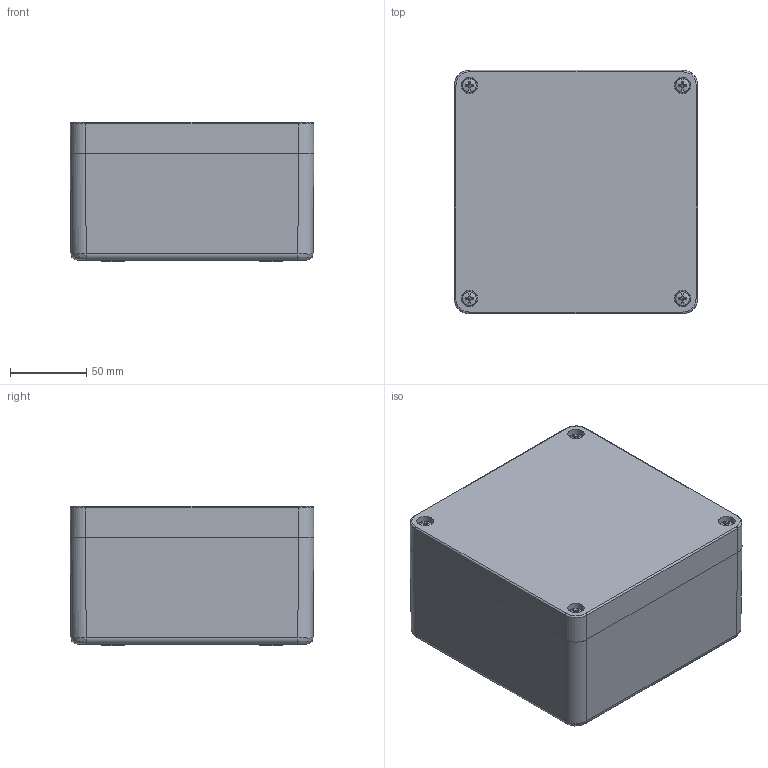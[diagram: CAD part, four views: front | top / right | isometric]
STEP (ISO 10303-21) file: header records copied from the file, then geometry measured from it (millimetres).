
FILE_DESCRIPTION(/* description */ (''),/* implementation_level */ '2;1');
FILE_NAME(/* name */ 'E:\Eng\Customer Service\Drawings\working on 1590ZGRP\STEP\1590ZGRP161\1590ZGRP161.iam.stp',/* time_stamp */ '2016-02-02T08:21:04-05:00',/* author */ ('kbond'),/* organization */ (''),/* preprocessor_version */ 'ST-DEVELOPER v16.1',/* originating_system */ 'Autodesk Inventor 2016',/* authorisation */ '');
FILE_SCHEMA (('AUTOMOTIVE_DESIGN { 1 0 10303 214 3 1 1 }'));
Length unit declared in the file: millimetre
Products named in the file (6): 1590ZGRP161 box; 1590ZGRP161PL; 1590ZGRP161 lid; 1590ZGRP161 Gasket; (screw M6-1X 30mm PN); 1590ZGRP161
Assembly tree (8 placements, depth 2):
  1590ZGRP161
    1590ZGRP161 box
    1590ZGRP161PL
    1590ZGRP161 lid
    1590ZGRP161 Gasket
    (screw M6-1X 30mm PN)  x4
Bounding box: 160 x 160 x 91.3 mm (x, y, z)
Volume: 712756.7 mm3; surface area: 269906 mm2
Topology: 8 solids, 8 shells, 483 faces, 1188 edges, 766 vertices
Faces by surface type: plane 225, cylinder 98, cone 92, torus 52, bspline 8, sphere 8
Full cylindrical faces by diameter (mm): 4.8 x8, 4.917 x10, 5.28 x4, 5.88 x4, 6 x4, 6.4 x4, 6.8 x4, 7 x6, 10.8 x4
Entity records: 11041 total; most frequent: CARTESIAN_POINT 2072, DIRECTION 1992, ORIENTED_EDGE 1638, EDGE_CURVE 819, AXIS2_PLACEMENT_3D 805, VERTEX_POINT 561, EDGE_LOOP 518, CIRCLE 397
